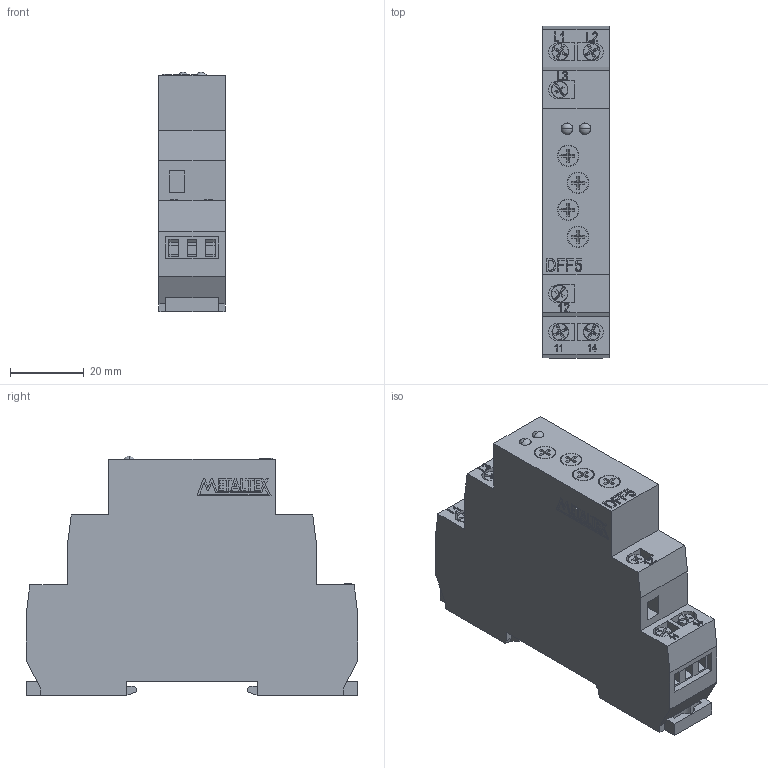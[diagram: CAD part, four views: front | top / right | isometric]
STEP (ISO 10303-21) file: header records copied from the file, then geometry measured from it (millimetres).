
FILE_DESCRIPTION (( 'STEP AP214' ), '1' );
FILE_NAME ('DFF5.STEP', '2018-03-22T14:03:52', ( '' ), ( '' ), 'SwSTEP 2.0', 'SolidWorks 2017', '' );
FILE_SCHEMA (( 'AUTOMOTIVE_DESIGN' ));
Length unit declared in the file: millimetre
Products named in the file (1): DFF5
Bounding box: 17.9 x 89.75 x 64.8 mm (x, y, z)
Volume: 78724 mm3; surface area: 16738.6 mm2
Topology: 1 solids, 1 shells, 645 faces, 1713 edges, 1130 vertices
Faces by surface type: plane 521, bspline 54, cylinder 48, cone 18, sphere 4
Entity records: 26338 total; most frequent: CARTESIAN_POINT 6799, ORIENTED_EDGE 3426, DIRECTION 2911, EDGE_CURVE 1713, VECTOR 1435, LINE 1435, VERTEX_POINT 1130, AXIS2_PLACEMENT_3D 738
